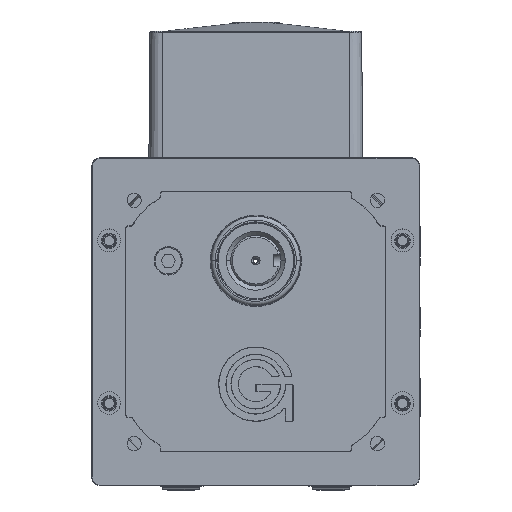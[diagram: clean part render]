
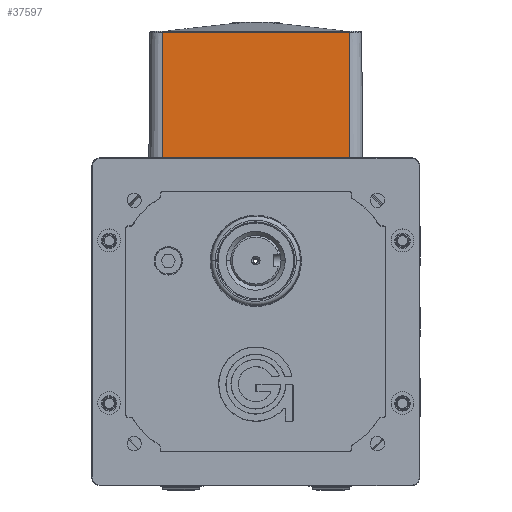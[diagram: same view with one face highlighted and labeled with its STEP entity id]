
A CAD part, top view. The second image highlights one B-rep face of the part: STEP entity #37597.
In plain terms, the highlighted planar face has unit normal (0, 0.009, 1).
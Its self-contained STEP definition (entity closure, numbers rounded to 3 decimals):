
#491 = VERTEX_POINT ( 'NONE', #24930 ) ;
#3721 = EDGE_CURVE ( 'NONE', #14298, #491, #60969, .T. ) ;
#5677 = LINE ( 'NONE', #24742, #7455 ) ;
#6104 = CARTESIAN_POINT ( 'NONE',  ( -35.408, 56.134, -134.737 ) ) ;
#7455 = VECTOR ( 'NONE', #19575, 1000. ) ;
#7756 = FACE_OUTER_BOUND ( 'NONE', #58810, .T. ) ;
#9837 = EDGE_CURVE ( 'NONE', #491, #42664, #60688, .T. ) ;
#11048 = DIRECTION ( 'NONE',  ( 0., 1., -0.009 ) ) ;
#11697 = DIRECTION ( 'NONE',  ( 0., -1., 0.009 ) ) ;
#12319 = VERTEX_POINT ( 'NONE', #60167 ) ;
#13400 = DIRECTION ( 'NONE',  ( -1., 0., 0. ) ) ;
#14298 = VERTEX_POINT ( 'NONE', #24624 ) ;
#18560 = CARTESIAN_POINT ( 'NONE',  ( -35.408, 56.134, -134.737 ) ) ;
#19575 = DIRECTION ( 'NONE',  ( 1., 0., 0. ) ) ;
#19940 = VECTOR ( 'NONE', #13400, 1000. ) ;
#20148 = LINE ( 'NONE', #28729, #51074 ) ;
#24624 = CARTESIAN_POINT ( 'NONE',  ( 35.408, 109.731, -135.205 ) ) ;
#24742 = CARTESIAN_POINT ( 'NONE',  ( 40.488, 56.134, -134.737 ) ) ;
#24880 = ORIENTED_EDGE ( 'NONE', *, *, #46771, .T. ) ;
#24930 = CARTESIAN_POINT ( 'NONE',  ( -35.408, 109.731, -135.205 ) ) ;
#27297 = DIRECTION ( 'NONE',  ( 0., 0.009, 1. ) ) ;
#28729 = CARTESIAN_POINT ( 'NONE',  ( 35.408, 56.134, -134.737 ) ) ;
#31724 = PLANE ( 'NONE',  #41909 ) ;
#33915 = EDGE_CURVE ( 'NONE', #42664, #12319, #5677, .T. ) ;
#37597 = ADVANCED_FACE ( 'NONE', ( #7756 ), #31724, .T. ) ;
#41909 = AXIS2_PLACEMENT_3D ( 'NONE', #59370, #27297, #11048 ) ;
#42664 = VERTEX_POINT ( 'NONE', #18560 ) ;
#46771 = EDGE_CURVE ( 'NONE', #12319, #14298, #20148, .T. ) ;
#50699 = ORIENTED_EDGE ( 'NONE', *, *, #33915, .T. ) ;
#51074 = VECTOR ( 'NONE', #66117, 1000. ) ;
#54122 = ORIENTED_EDGE ( 'NONE', *, *, #9837, .T. ) ;
#58810 = EDGE_LOOP ( 'NONE', ( #24880, #67718, #54122, #50699 ) ) ;
#59015 = VECTOR ( 'NONE', #11697, 1000. ) ;
#59370 = CARTESIAN_POINT ( 'NONE',  ( 40.488, 56.134, -134.737 ) ) ;
#60167 = CARTESIAN_POINT ( 'NONE',  ( 35.408, 56.134, -134.737 ) ) ;
#60688 = LINE ( 'NONE', #6104, #59015 ) ;
#60969 = LINE ( 'NONE', #66114, #19940 ) ;
#66114 = CARTESIAN_POINT ( 'NONE',  ( 40.488, 109.731, -135.205 ) ) ;
#66117 = DIRECTION ( 'NONE',  ( 0., 1., -0.009 ) ) ;
#67718 = ORIENTED_EDGE ( 'NONE', *, *, #3721, .T. ) ;
